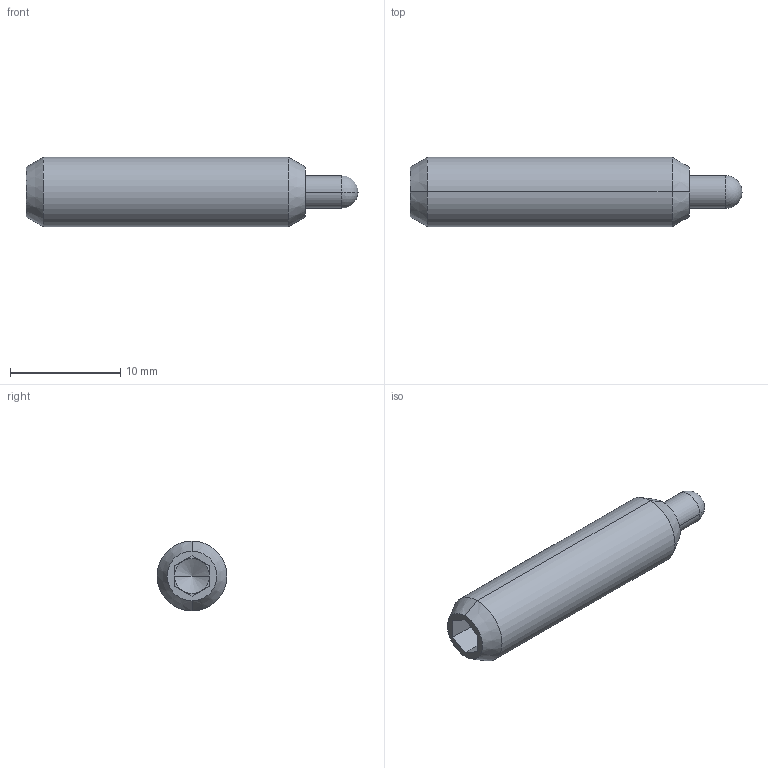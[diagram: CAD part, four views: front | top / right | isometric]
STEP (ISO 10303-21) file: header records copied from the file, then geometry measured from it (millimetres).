
FILE_DESCRIPTION (( 'STEP AP203' ), '1' );
FILE_NAME ('3B20.W074.step', '2009-10-12T13:53:05', ( 'Wixroyd' ), ( 'Wixroyd' ), 'SwSTEP 2.0', 'SolidWorks 2009', '' );
FILE_SCHEMA (( 'CONFIG_CONTROL_DESIGN' ));
Length unit declared in the file: inch
Products named in the file (3): Part1_3B20.W074; Part2_3B20.W074; 3B20.W074
Assembly tree (2 placements, depth 2):
  3B20.W074
    Part2_3B20.W074
    Part1_3B20.W074
Bounding box: 30.18 x 6.35 x 6.35 mm (x, y, z)
Volume: 570.8 mm3; surface area: 939.6 mm2
Topology: 2 solids, 2 shells, 43 faces, 92 edges, 52 vertices
Faces by surface type: plane 17, cylinder 12, cone 12, sphere 2
Entity records: 1413 total; most frequent: DIRECTION 220, CARTESIAN_POINT 184, ORIENTED_EDGE 172, EDGE_CURVE 86, AXIS2_PLACEMENT_3D 86, VERTEX_POINT 50, VECTOR 48, LINE 48
